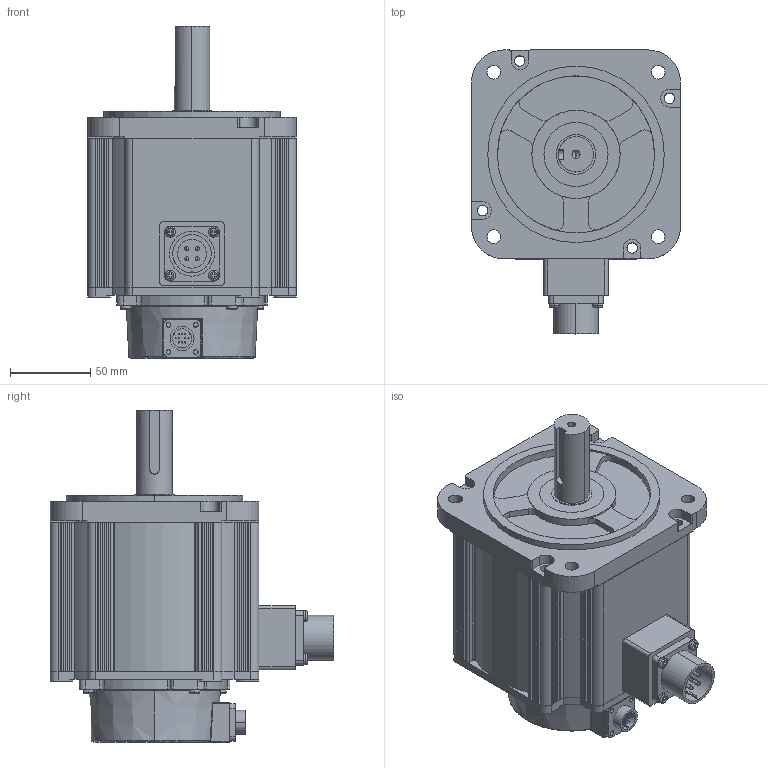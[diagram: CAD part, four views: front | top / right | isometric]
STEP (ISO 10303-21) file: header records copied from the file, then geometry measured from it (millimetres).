
FILE_DESCRIPTION (( 'STEP AP203' ), '1' );
FILE_NAME ('130E-08415.STEP', '2024-09-05T11:13:14', ( '' ), ( '' ), 'SwSTEP 2.0', 'SolidWorks 2018', '' );
FILE_SCHEMA (( 'CONFIG_CONTROL_DESIGN' ));
Length unit declared in the file: millimetre
Products named in the file (10): 堤粣; 130A諉盄釱-1; 蚐猾; SC-CMV1-R10P-E; 130E-08415; 儂褲-8.4; 130A綴裔潠謹; 18-10; 130Aǰ; 橈勤硉晤鎢ん誘欶  S13E.10-01
Assembly tree (9 placements, depth 2):
  130E-08415
    130A綴裔潠謹
    130A諉盄釱-1
    130Aǰ
    堤粣
    蚐猾
    儂褲-8.4
    18-10
    SC-CMV1-R10P-E
    橈勤硉晤鎢ん誘欶  S13E.10-01
Bounding box: 130.2 x 176.9 x 207 mm (x, y, z)
Volume: 648862.2 mm3; surface area: 278062.4 mm2
Topology: 9 solids, 13 shells, 925 faces, 2474 edges, 1616 vertices
Faces by surface type: plane 520, cylinder 330, torus 45, sphere 12, cone 10, bspline 8
Entity records: 30852 total; most frequent: CARTESIAN_POINT 6072, DIRECTION 5044, ORIENTED_EDGE 4892, EDGE_CURVE 2446, AXIS2_PLACEMENT_3D 1710, LINE 1624, VECTOR 1624, VERTEX_POINT 1604
